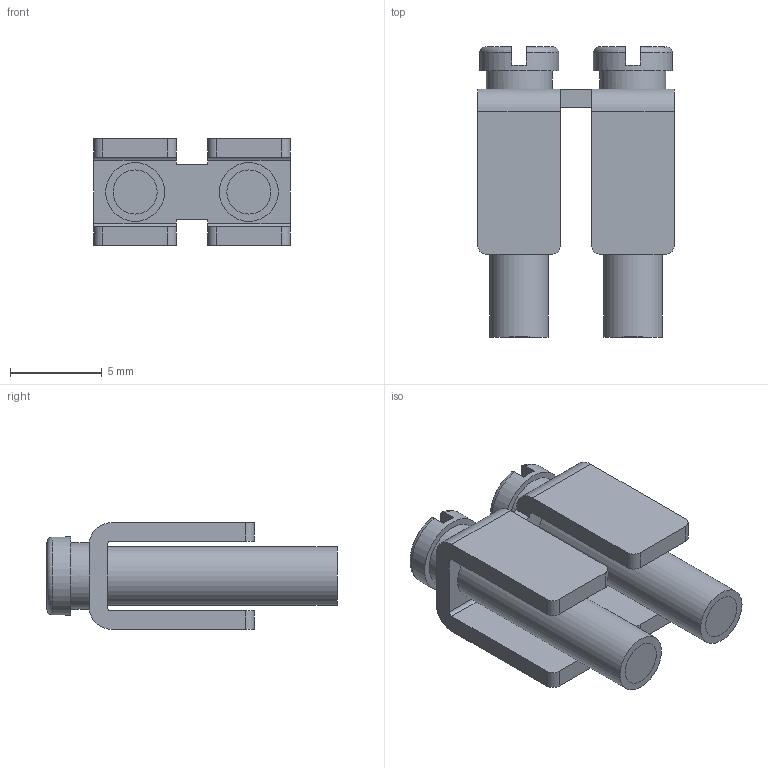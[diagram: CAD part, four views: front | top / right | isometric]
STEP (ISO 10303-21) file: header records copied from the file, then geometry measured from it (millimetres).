
FILE_DESCRIPTION(('Open CASCADE Model'),'2;1');
FILE_NAME('Open CASCADE Shape Model','2023-12-20T15:09:07',('Author'),( 'Open CASCADE'),'Open CASCADE STEP processor 6.5','Open CASCADE 6.5' ,'Unknown');
FILE_SCHEMA(('AUTOMOTIVE_DESIGN { 1 0 10303 214 1 1 1 1 }'));
Length unit declared in the file: millimetre
Products named in the file (103): CADSOFTTOOLS 2; CADSOFTTOOLS 2.1; CADSOFTTOOLS 2.2; CADSOFTTOOLS 2.3; CADSOFTTOOLS 2.4; CADSOFTTOOLS 2.5; CADSOFTTOOLS 2.6; CADSOFTTOOLS 2.7; CADSOFTTOOLS 2.8; CADSOFTTOOLS 2.9; CADSOFTTOOLS 2.10; CADSOFTTOOLS 2.11; CADSOFTTOOLS 2.12; CADSOFTTOOLS 2.13; CADSOFTTOOLS 2.14; CADSOFTTOOLS 2.15; CADSOFTTOOLS 2.16; CADSOFTTOOLS 2.17; CADSOFTTOOLS 2.18; CADSOFTTOOLS 2.19; CADSOFTTOOLS 2.20; CADSOFTTOOLS 2.41; CADSOFTTOOLS 2.42; CADSOFTTOOLS 2.43; CADSOFTTOOLS 2.44; CADSOFTTOOLS 2.45; CADSOFTTOOLS 2.46; CADSOFTTOOLS 2.47; CADSOFTTOOLS 2.48; CADSOFTTOOLS 2.49; CADSOFTTOOLS 2.50; CADSOFTTOOLS 2.51; CADSOFTTOOLS 2.52; CADSOFTTOOLS 2.53; CADSOFTTOOLS 2.54; CADSOFTTOOLS 2.55; CADSOFTTOOLS 2.56; CADSOFTTOOLS 2.57; CADSOFTTOOLS 2.58; CADSOFTTOOLS 2.59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
Assembly tree (122 placements, depth 2):
  CADSOFTTOOLS 2
    CADSOFTTOOLS 2.1  x2
    CADSOFTTOOLS 2.2  x2
    CADSOFTTOOLS 2.3  x2
    CADSOFTTOOLS 2.4  x2
    CADSOFTTOOLS 2.5  x2
    CADSOFTTOOLS 2.6  x2
    CADSOFTTOOLS 2.7  x2
    CADSOFTTOOLS 2.8  x2
    CADSOFTTOOLS 2.9  x2
    CADSOFTTOOLS 2.10  x2
    CADSOFTTOOLS 2.11  x2
    CADSOFTTOOLS 2.12  x2
    CADSOFTTOOLS 2.13  x2
    CADSOFTTOOLS 2.14  x2
    CADSOFTTOOLS 2.15  x2
    CADSOFTTOOLS 2.16  x2
    CADSOFTTOOLS 2.17  x2
    CADSOFTTOOLS 2.18  x2
    CADSOFTTOOLS 2.19  x2
    CADSOFTTOOLS 2.20  x2
    CADSOFTTOOLS 2.41
    CADSOFTTOOLS 2.42
    CADSOFTTOOLS 2.43
    CADSOFTTOOLS 2.44
    CADSOFTTOOLS 2.45
    CADSOFTTOOLS 2.46
    CADSOFTTOOLS 2.47
    CADSOFTTOOLS 2.48
    CADSOFTTOOLS 2.49
    CADSOFTTOOLS 2.50
    CADSOFTTOOLS 2.51
    CADSOFTTOOLS 2.52
    CADSOFTTOOLS 2.53
    CADSOFTTOOLS 2.54
    CADSOFTTOOLS 2.55
    CADSOFTTOOLS 2.56
    CADSOFTTOOLS 2.57
    CADSOFTTOOLS 2.58
    CADSOFTTOOLS 2.59
    CADSOFTTOOLS 2.60
    CADSOFTTOOLS 2.61
    CADSOFTTOOLS 2.62
    CADSOFTTOOLS 2.63
    CADSOFTTOOLS 2.64
    CADSOFTTOOLS 2.65
    CADSOFTTOOLS 2.66
    CADSOFTTOOLS 2.67
    CADSOFTTOOLS 2.68
    CADSOFTTOOLS 2.69
    CADSOFTTOOLS 2.70
    CADSOFTTOOLS 2.71
    CADSOFTTOOLS 2.72
    CADSOFTTOOLS 2.73
    CADSOFTTOOLS 2.74
    CADSOFTTOOLS 2.75
    CADSOFTTOOLS 2.76
    CADSOFTTOOLS 2.77
    CADSOFTTOOLS 2.78
    CADSOFTTOOLS 2.79
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Bounding box: 10.7 x 15.8 x 5.8 mm (x, y, z)
Surface area: 1379.8 mm2 (no closed solid volume)
Topology: 0 solids, 122 shells, 122 faces, 616 edges, 602 vertices
Faces by surface type: plane 64, cylinder 36, bspline 12, torus 8, cone 2
Full cylindrical faces by diameter (mm): 3.2 x4, 3.6 x4, 4.3 x4
Entity records: 51578 total; most frequent: CARTESIAN_POINT 43186, DIRECTION 1215, ORIENTED_EDGE 534, PCURVE 534, DEFINITIONAL_REPRESENTATION 534, EDGE_CURVE 523, VERTEX_POINT 512, SURFACE_CURVE 512
